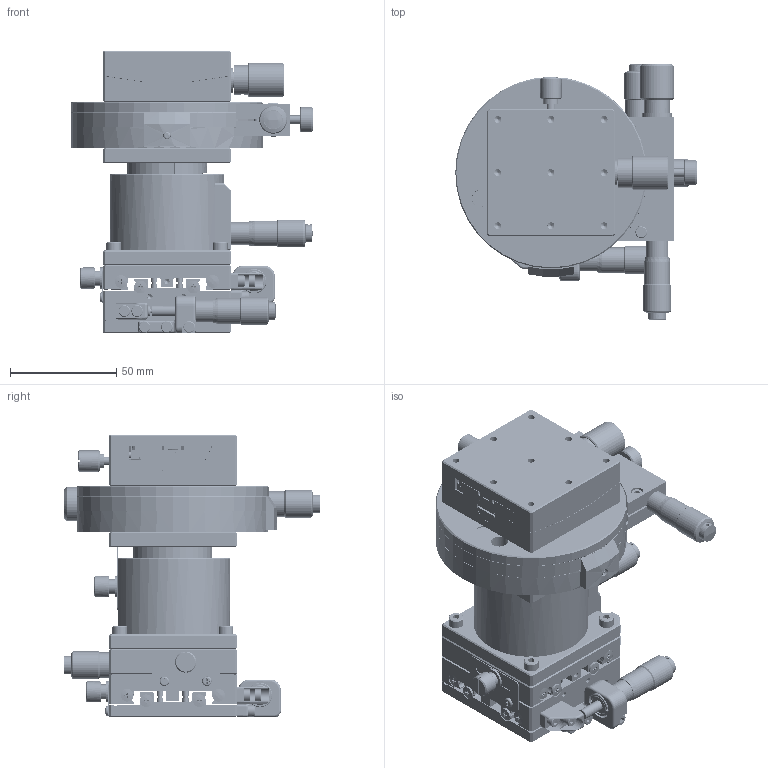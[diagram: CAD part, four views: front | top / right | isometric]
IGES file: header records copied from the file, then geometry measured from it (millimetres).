
Global section: file name: No Iges File Name specified; native system: AutoDesk Inventor R12.0; preprocessor: AutoDesk Inventor Iges Exporter R12.0; author: No Author specified; organization: No Organization specified; date: 20091022.180755; units: millimetre
Bounding box: 113.59 x 120.75 x 133 mm (x, y, z)
Volume: 445303.8 mm3; surface area: 189795.5 mm2
Topology: 56 solids, 156 shells, 4498 faces, 10841 edges, 6890 vertices
Faces by surface type: plane 1807, bspline 927, cylinder 837, revolution 448, cone 365, sphere 61, torus 53
